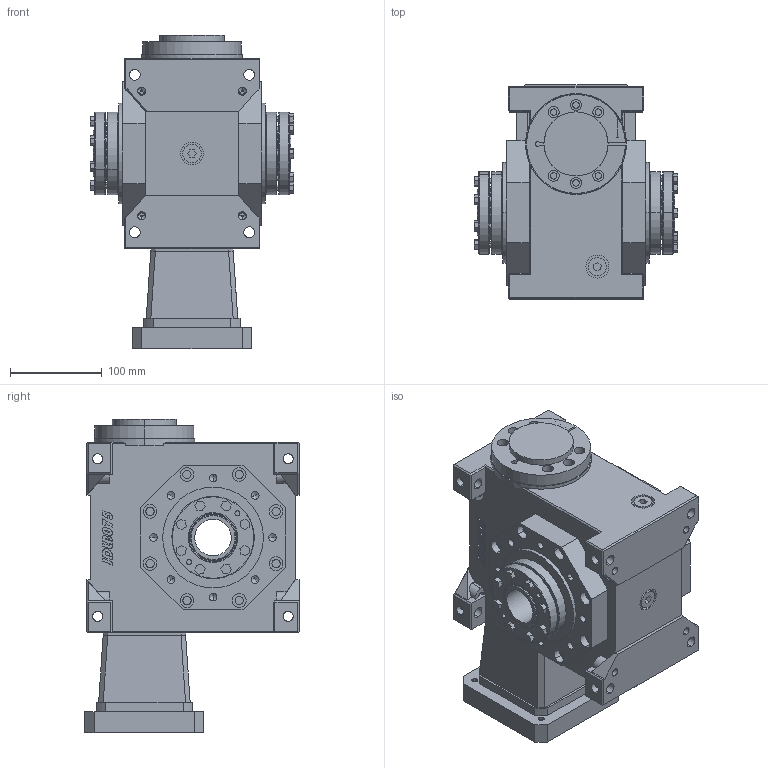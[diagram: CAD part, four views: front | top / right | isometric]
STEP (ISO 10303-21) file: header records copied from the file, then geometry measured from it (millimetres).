
FILE_DESCRIPTION (( 'STEP AP214' ), '1' );
FILE_NAME ('JDLB075-(5~90)-2C-24-110-145-M8.STEP', '2022-03-26T08:06:52', ( '' ), ( '' ), 'SwSTEP 2.0', 'SolidWorks 2018', '' );
FILE_SCHEMA (( 'AUTOMOTIVE_DESIGN' ));
Length unit declared in the file: millimetre
Products named in the file (7): JDLB075-C1坶踡攫-50-90-25; JDLB075-2C諾陑粣朴40; 联轴器BD68-73.3-24-24锁紧; JDLB075-CR眊极; ST130-110-145-M8侜督楊擘諉諳; JDLB075-(5~90)-2C-24-110-145-M8; JDLB075-ST105输入法兰1
Assembly tree (7 placements, depth 2):
  JDLB075-(5~90)-2C-24-110-145-M8
    JDLB075-CR眊极
    JDLB075-2C諾陑粣朴40
    JDLB075-ST105输入法兰1
    ST130-110-145-M8侜督楊擘諉諳
    JDLB075-C1坶踡攫-50-90-25  x2
    联轴器BD68-73.3-24-24锁紧
Bounding box: 222 x 234 x 342 mm (x, y, z)
Volume: 7156077.6 mm3; surface area: 693882.1 mm2
Topology: 22 solids, 22 shells, 1497 faces, 3573 edges, 2270 vertices
Faces by surface type: plane 723, cylinder 539, cone 118, bspline 65, torus 52
Entity records: 49385 total; most frequent: CARTESIAN_POINT 12863, DIRECTION 6677, ORIENTED_EDGE 6378, EDGE_CURVE 3189, AXIS2_PLACEMENT_3D 2418, VERTEX_POINT 2060, LINE 1841, VECTOR 1841
